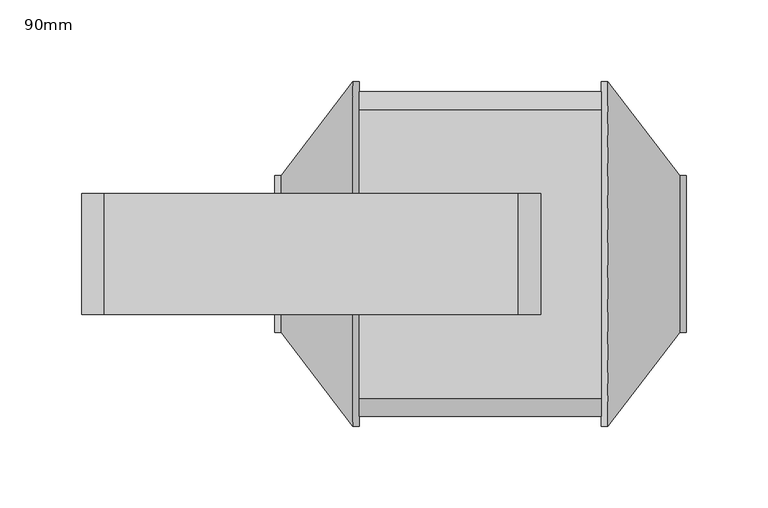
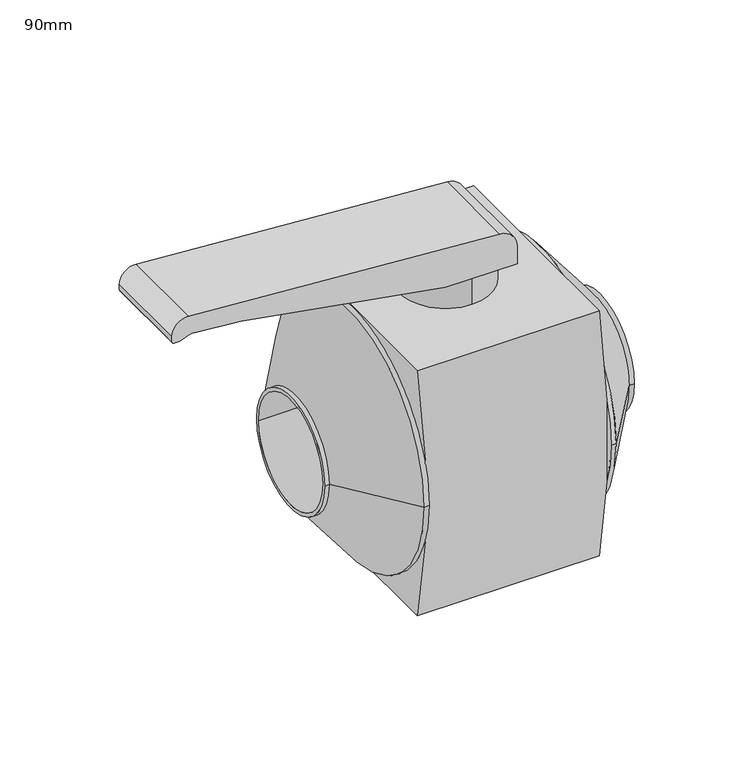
"""IFC4 building model written with IfcOpenShell, lengths in millimetres: pipe fitting geometry, PipeAccessory_HTA_CPVC_BallValves_(75-110) : 90mm."""

from ifc_helpers import new_model, si_unit, point, frame, frame_2d, origin, place, context, project, spatial, polyline, circle_curve, trimmed, segment, composite_curve, outline, extrude, source, transform, mapped, element, save
from ifc_brep_helpers import plane_surface, cylinder_surface, revolved_surface, advanced_brep


def pipe_fitting_90mm_082ae0c6(model_context):
    return source(origin(), model_context, "Body", "SolidModel", [
        extrude(outline(composite_curve([segment(polyline([(127.769971, 37.0), (143.0385704, 37.0)]), True, "CONTINUOUS"), segment(trimmed(circle_curve(frame_2d((143.0385704, 22.0)), 15.0), [point((143.0385704, 37.0))], [point((158.0000408, 23.0744323))], False, "CARTESIAN"), True, "CONTINUOUS"), segment(polyline([(158.0000408, 23.0744323), (176.0137159, -230.2659945)]), True, "CONTINUOUS"), segment(trimmed(circle_curve(frame_2d((163.2306259, -231.1839902)), 12.8160098), [point((176.0137159, -230.2659945))], [point((163.2306259, -244.0))], False, "CARTESIAN"), True, "CONTINUOUS"), segment(polyline([(163.2306259, -244.0), (158.508446, -244.0)]), True, "CONTINUOUS"), segment(trimmed(circle_curve(frame_2d((158.508446, -242.491554)), 1.508446), [point((158.508446, -244.0))], [point((157.0, -242.491554))], False, "CARTESIAN"), True, "CONTINUOUS"), segment(polyline([(157.0, -242.491554), (157.0, -238.7032744)]), True, "CONTINUOUS"), segment(trimmed(circle_curve(frame_2d((164.9869467, -238.7032744)), 7.9869467), [point((157.0, -238.7032744))], [point((157.7483147, -235.3278449))], False, "CARTESIAN"), True, "CONTINUOUS"), segment(polyline([(157.7483147, -235.3278449), (159.3708994, -231.8482009)]), True, "CONTINUOUS"), segment(trimmed(circle_curve(frame_2d((148.9196901, -226.974722)), 11.5316335), [point((159.3708994, -231.8482009))], [point((160.4052437, -225.9448526))], True, "CARTESIAN"), True, "CONTINUOUS"), segment(polyline([(160.4052437, -225.9448526), (157.0, -187.9680892), (127.769971, -21.447273), (127.769971, 37.0)]), True, "CONTINUOUS")], self_intersect=False)), frame((0.0, -37.0, 0.0), z_axis=(0.0, 1.0, 0.0), x_axis=(0.0, 0.0, 1.0)), (0.0, 0.0, 1.0), 74.0),
        advanced_brep(
        [(-74.0, 88.5, 105.5), (-74.0, 99.4810726, 35.1250082), (-74.0, 0.0, 105.5), (-74.0, 0.0, -105.5), (-74.0, -88.5, -105.5), (-74.0, -99.4810726, -35.1250082), (-74.0, -99.4810726, 35.1250082), (-74.0, -88.5, 105.5), (-74.0, 99.4810726, -35.1250082), (-74.0, 88.5, -105.5), (74.0, 88.5, 105.5), (74.0, 0.0, 105.5), (74.0, 99.4810726, 35.1250082), (74.0, -88.5, 105.5), (74.0, -99.4810726, 35.1250082), (74.0, -99.4810726, -35.1250082), (74.0, -88.5, -105.5), (74.0, 0.0, -105.5), (74.0, 88.5, -105.5), (74.0, 99.4810726, -35.1250082), (0.0, -37.0, 105.5), (0.0, 37.0, 105.5), (-74.0, 105.5, 0.0), (-74.0, -105.5, 0.0), (-78.0, -105.5, 0.0), (-78.0, 105.5, 0.0), (74.0, -105.5, 0.0), (74.0, 105.5, 0.0), (78.0, -105.5, 0.0), (78.0, 105.5, 0.0), (122.0, 48.0, 0.0), (122.0, -48.0, 0.0), (126.0, -48.0, 0.0), (126.0, 48.0, 0.0), (126.0, 45.0, 0.0), (126.0, -45.0, 0.0), (0.0, 37.0, 130.5), (0.0, -37.0, 130.5), (-122.0, 48.0, 0.0), (-122.0, -48.0, 0.0), (-126.0, 48.0, 0.0), (-126.0, -48.0, 0.0), (-126.0, -45.0, 0.0), (-126.0, 45.0, 0.0), (74.0, 45.0, 0.0), (74.0, -45.0, 0.0), (-74.0, 45.0, 0.0), (-74.0, -45.0, 0.0)],
        [
            (0, 1, circle_curve(frame((-74.0, -356.625, 0.0), z_axis=(-1.0, 0.0, 0.0), x_axis=(0.0, 1.0, 0.0)), 457.4565724)),
            (1, 2, circle_curve(frame((-74.0, 0.0, 0.0), z_axis=(1.0, 0.0, 0.0), x_axis=(0.0, 1.0, 0.0)), 105.5)),
            (2, 0),
            (3, 4),
            (4, 5, circle_curve(frame((-74.0, 356.625, 0.0), z_axis=(-1.0, 0.0, 0.0), x_axis=(0.0, 1.0, 0.0)), 457.4565724)),
            (5, 3, circle_curve(frame((-74.0, 0.0, 0.0), z_axis=(1.0, 0.0, 0.0), x_axis=(0.0, 1.0, 0.0)), 105.5)),
            (6, 7, circle_curve(frame((-74.0, 356.625, 0.0), z_axis=(-1.0, 0.0, 0.0), x_axis=(0.0, 1.0, 0.0)), 457.4565724)),
            (7, 2),
            (2, 6, circle_curve(frame((-74.0, 0.0, 0.0), z_axis=(1.0, 0.0, 0.0), x_axis=(0.0, 1.0, 0.0)), 105.5)),
            (8, 9, circle_curve(frame((-74.0, -356.625, 0.0), z_axis=(-1.0, 0.0, 0.0), x_axis=(0.0, 1.0, 0.0)), 457.4565724)),
            (9, 3),
            (3, 8, circle_curve(frame((-74.0, 0.0, 0.0), z_axis=(1.0, 0.0, 0.0), x_axis=(0.0, 1.0, 0.0)), 105.5)),
            (10, 11),
            (11, 12, circle_curve(frame((74.0, 0.0, 0.0), z_axis=(-1.0, 0.0, 0.0), x_axis=(0.0, -1.0, 0.0)), 105.5)),
            (12, 10, circle_curve(frame((74.0, -356.625, 0.0), z_axis=(1.0, 0.0, 0.0), x_axis=(0.0, 1.0, 0.0)), 457.4565724)),
            (11, 13),
            (13, 14, circle_curve(frame((74.0, 356.625, 0.0), z_axis=(1.0, 0.0, 0.0), x_axis=(0.0, 1.0, 0.0)), 457.4565724)),
            (14, 11, circle_curve(frame((74.0, 0.0, 0.0), z_axis=(-1.0, 0.0, 0.0), x_axis=(0.0, -1.0, 0.0)), 105.5)),
            (15, 16, circle_curve(frame((74.0, 356.625, 0.0), z_axis=(1.0, 0.0, 0.0), x_axis=(0.0, 1.0, 0.0)), 457.4565724)),
            (16, 17),
            (17, 15, circle_curve(frame((74.0, 0.0, 0.0), z_axis=(-1.0, 0.0, 0.0), x_axis=(0.0, -1.0, 0.0)), 105.5)),
            (17, 18),
            (18, 19, circle_curve(frame((74.0, -356.625, 0.0), z_axis=(1.0, 0.0, 0.0), x_axis=(0.0, 1.0, 0.0)), 457.4565724)),
            (19, 17, circle_curve(frame((74.0, 0.0, 0.0), z_axis=(-1.0, 0.0, 0.0), x_axis=(0.0, -1.0, 0.0)), 105.5)),
            (9, 18),
            (16, 4),
            (7, 13),
            (10, 0),
            (20, 21, circle_curve(frame((0.0, 0.0, 105.5), z_axis=(0.0, 0.0, -1.0), x_axis=(0.0, -1.0, 0.0)), 37.0)),
            (21, 20, circle_curve(frame((0.0, 0.0, 105.5), z_axis=(0.0, 0.0, -1.0), x_axis=(0.0, -1.0, 0.0)), 37.0)),
            (8, 1, circle_curve(frame((-74.0, -356.625, 0.0), z_axis=(1.0, 0.0, 0.0), x_axis=(0.0, 1.0, 0.0)), 457.4565724)),
            (12, 19, circle_curve(frame((74.0, -356.625, 0.0), z_axis=(-1.0, 0.0, 0.0), x_axis=(0.0, 1.0, 0.0)), 457.4565724)),
            (15, 14, circle_curve(frame((74.0, 356.625, 0.0), z_axis=(-1.0, 0.0, 0.0), x_axis=(0.0, 1.0, 0.0)), 457.4565724)),
            (6, 5, circle_curve(frame((-74.0, 356.625, 0.0), z_axis=(1.0, 0.0, 0.0), x_axis=(0.0, 1.0, 0.0)), 457.4565724)),
            (22, 1, circle_curve(frame((-74.0, 0.0, 0.0), z_axis=(1.0, 0.0, 0.0), x_axis=(0.0, 1.0, 0.0)), 105.5)),
            (8, 22, circle_curve(frame((-74.0, 0.0, 0.0), z_axis=(1.0, 0.0, 0.0), x_axis=(0.0, 1.0, 0.0)), 105.5)),
            (6, 23, circle_curve(frame((-74.0, 0.0, 0.0), z_axis=(1.0, 0.0, 0.0), x_axis=(0.0, 1.0, 0.0)), 105.5)),
            (23, 5, circle_curve(frame((-74.0, 0.0, 0.0), z_axis=(1.0, 0.0, 0.0), x_axis=(0.0, 1.0, 0.0)), 105.5)),
            (24, 23),
            (22, 25),
            (25, 24, circle_curve(frame((-78.0, 0.0, 0.0), z_axis=(1.0, 0.0, 0.0), x_axis=(0.0, 1.0, 0.0)), 105.5)),
            (24, 25, circle_curve(frame((-78.0, 0.0, 0.0), z_axis=(1.0, 0.0, 0.0), x_axis=(0.0, 1.0, 0.0)), 105.5)),
            (15, 26, circle_curve(frame((74.0, 0.0, 0.0), z_axis=(-1.0, 0.0, 0.0), x_axis=(0.0, -1.0, 0.0)), 105.5)),
            (26, 14, circle_curve(frame((74.0, 0.0, 0.0), z_axis=(-1.0, 0.0, 0.0), x_axis=(0.0, -1.0, 0.0)), 105.5)),
            (27, 19, circle_curve(frame((74.0, 0.0, 0.0), z_axis=(-1.0, 0.0, 0.0), x_axis=(0.0, -1.0, 0.0)), 105.5)),
            (12, 27, circle_curve(frame((74.0, 0.0, 0.0), z_axis=(-1.0, 0.0, 0.0), x_axis=(0.0, -1.0, 0.0)), 105.5)),
            (28, 26),
            (27, 29),
            (29, 28, circle_curve(frame((78.0, 0.0, 0.0), z_axis=(-1.0, 0.0, 0.0), x_axis=(0.0, -1.0, 0.0)), 105.5)),
            (28, 29, circle_curve(frame((78.0, 0.0, 0.0), z_axis=(-1.0, 0.0, 0.0), x_axis=(0.0, -1.0, 0.0)), 105.5)),
            (29, 30),
            (30, 31, circle_curve(frame((122.0, 0.0, 0.0), z_axis=(-1.0, 0.0, 0.0), x_axis=(0.0, -1.0, 0.0)), 48.0)),
            (31, 28),
            (31, 30, circle_curve(frame((122.0, 0.0, 0.0), z_axis=(-1.0, 0.0, 0.0), x_axis=(0.0, 1.0, 0.0)), 48.0)),
            (32, 33, circle_curve(frame((126.0, 0.0, 0.0), z_axis=(1.0, 0.0, 0.0), x_axis=(0.0, 1.0, 0.0)), 48.0)),
            (33, 32, circle_curve(frame((126.0, 0.0, 0.0), z_axis=(1.0, 0.0, 0.0), x_axis=(0.0, 1.0, 0.0)), 48.0)),
            (34, 35, circle_curve(frame((126.0, 0.0, 0.0), z_axis=(-1.0, 0.0, 0.0), x_axis=(0.0, -1.0, 0.0)), 45.0)),
            (35, 34, circle_curve(frame((126.0, 0.0, 0.0), z_axis=(-1.0, 0.0, 0.0), x_axis=(0.0, -1.0, 0.0)), 45.0)),
            (33, 30),
            (31, 32),
            (36, 37, circle_curve(frame((0.0, 0.0, 130.5), z_axis=(0.0, 0.0, 1.0), x_axis=(0.0, -1.0, 0.0)), 37.0)),
            (37, 36, circle_curve(frame((0.0, 0.0, 130.5), z_axis=(0.0, 0.0, 1.0), x_axis=(0.0, -1.0, 0.0)), 37.0)),
            (36, 21),
            (20, 37),
            (25, 38),
            (38, 39, circle_curve(frame((-122.0, 0.0, 0.0), z_axis=(1.0, 0.0, 0.0), x_axis=(0.0, -1.0, 0.0)), 48.0)),
            (39, 24),
            (39, 38, circle_curve(frame((-122.0, 0.0, 0.0), z_axis=(1.0, 0.0, 0.0), x_axis=(0.0, 1.0, 0.0)), 48.0)),
            (40, 41, circle_curve(frame((-126.0, 0.0, 0.0), z_axis=(-1.0, 0.0, 0.0), x_axis=(0.0, -1.0, 0.0)), 48.0)),
            (41, 40, circle_curve(frame((-126.0, 0.0, 0.0), z_axis=(-1.0, 0.0, 0.0), x_axis=(0.0, -1.0, 0.0)), 48.0)),
            (42, 43, circle_curve(frame((-126.0, 0.0, 0.0), z_axis=(1.0, 0.0, 0.0), x_axis=(0.0, -1.0, 0.0)), 45.0)),
            (43, 42, circle_curve(frame((-126.0, 0.0, 0.0), z_axis=(1.0, 0.0, 0.0), x_axis=(0.0, -1.0, 0.0)), 45.0)),
            (40, 38),
            (39, 41),
            (44, 45, circle_curve(frame((74.0, 0.0, 0.0), z_axis=(1.0, 0.0, 0.0), x_axis=(0.0, -1.0, 0.0)), 45.0)),
            (45, 44, circle_curve(frame((74.0, 0.0, 0.0), z_axis=(1.0, 0.0, 0.0), x_axis=(0.0, -1.0, 0.0)), 45.0)),
            (45, 35),
            (34, 44),
            (46, 47, circle_curve(frame((-74.0, 0.0, 0.0), z_axis=(-1.0, 0.0, 0.0), x_axis=(0.0, -1.0, 0.0)), 45.0)),
            (47, 46, circle_curve(frame((-74.0, 0.0, 0.0), z_axis=(-1.0, 0.0, 0.0), x_axis=(0.0, -1.0, 0.0)), 45.0)),
            (46, 43),
            (42, 47),
        ],
        [
            plane_surface(frame((-74.0, 0.0, 0.0), z_axis=(-1.0, 0.0, 0.0), x_axis=(0.0, 0.0, 1.0))),
            plane_surface(frame((74.0, 0.0, 0.0), z_axis=(1.0, 0.0, 0.0), x_axis=(0.0, 0.0, 1.0))),
            plane_surface(frame((-74.0, 88.5, -105.5), z_axis=(0.0, 0.0, -1.0), x_axis=(1.0, 0.0, 0.0))),
            plane_surface(frame((-74.0, -88.5, 105.5), z_axis=(0.0, 0.0, 1.0), x_axis=(1.0, 0.0, 0.0))),
            cylinder_surface(frame((-74.0, -356.625, 0.0), z_axis=(-1.0, 0.0, 0.0), x_axis=(0.0, 1.0, 0.0)), 457.4565724),
            cylinder_surface(frame((-74.0, 356.625, 0.0), z_axis=(-1.0, 0.0, 0.0), x_axis=(0.0, 1.0, 0.0)), 457.4565724),
            plane_surface(frame((-74.0, 0.0, 0.0), z_axis=(1.0, 0.0, 0.0), x_axis=(0.0, 0.0, 1.0))),
            cylinder_surface(frame((-78.0, 0.0, 0.0), z_axis=(-1.0, 0.0, 0.0), x_axis=(0.0, 1.0, 0.0)), 105.5),
            plane_surface(frame((74.0, 0.0, 0.0), z_axis=(-1.0, 0.0, 0.0), x_axis=(0.0, 0.0, 1.0))),
            cylinder_surface(frame((78.0, 0.0, 0.0), z_axis=(1.0, 0.0, 0.0), x_axis=(0.0, -1.0, 0.0)), 105.5),
            revolved_surface(polyline([(122.0, 48.000000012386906, 0.0), (78.0, 105.5, 0.0)]), (158.7304348, 0.0, 0.0), (-1.0, 0.0, 0.0)),
            plane_surface(frame((126.0, 0.0, 0.0), z_axis=(1.0, 0.0, 0.0), x_axis=(0.0, 0.0, 1.0))),
            cylinder_surface(frame((122.0, 0.0, 0.0), z_axis=(-1.0, 0.0, 0.0), x_axis=(0.0, 1.0, 0.0)), 48.0),
            plane_surface(frame((0.0, 0.0, 130.5), z_axis=(0.0, 0.0, 1.0), x_axis=(0.0, -1.0, 0.0))),
            cylinder_surface(frame((0.0, 0.0, 130.5), z_axis=(0.0, 0.0, 1.0), x_axis=(0.0, -1.0, 0.0)), 37.0),
            revolved_surface(polyline([(-122.0, 48.000000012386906, 0.0), (-78.0, 105.5, 0.0)]), (-158.7304348, 0.0, 0.0), (1.0, 0.0, 0.0)),
            plane_surface(frame((-126.0, 0.0, 0.0), z_axis=(-1.0, 0.0, 0.0), x_axis=(0.0, 0.0, 1.0))),
            cylinder_surface(frame((-122.0, 0.0, 0.0), z_axis=(1.0, 0.0, 0.0), x_axis=(0.0, -1.0, 0.0)), 48.0),
            plane_surface(frame((74.0, -45.0, 0.0), z_axis=(1.0, 0.0, 0.0), x_axis=(0.0, 0.0, 1.0))),
            revolved_surface(polyline([(74.0, -45.0, 0.0), (126.0, -45.0, 0.0)]), (126.0, 0.0, 0.0), (-1.0, 0.0, 0.0)),
            plane_surface(frame((-74.0, -45.0, 0.0), z_axis=(-1.0, 0.0, 0.0), x_axis=(0.0, 0.0, -1.0))),
            revolved_surface(polyline([(-126.0, -45.0, 0.0), (-74.0, -45.0, 0.0)]), (-74.0, 0.0, 0.0), (-1.0, 0.0, 0.0)),
        ],
        [
            (0, [[1, 2, 3]]),
            (0, [[4, 5, 6]]),
            (0, [[7, 8, 9]]),
            (0, [[10, 11, 12]]),
            (1, [[13, 14, 15]]),
            (1, [[16, 17, 18]]),
            (1, [[19, 20, 21]]),
            (1, [[22, 23, 24]]),
            (2, [[25, -22, -20, 26, -4, -11]]),
            (3, [[27, -16, -13, 28, -3, -8], [29, 30]]),
            (4, [[-25, -10, 31, -1, -28, -15, 32, -23]]),
            (5, [[-26, -19, 33, -17, -27, -7, 34, -5]]),
            (6, [[35, -31, 36]]),
            (6, [[37, 38, -34]]),
            (7, [[39, -37, -9, -2, -35, 40, 41]]),
            (7, [[-39, 42, -40, -36, -12, -6, -38]]),
            (8, [[43, 44, -33]]),
            (8, [[45, -32, 46]]),
            (9, [[47, -43, -21, -24, -45, 48, 49]]),
            (9, [[-47, 50, -48, -46, -14, -18, -44]]),
            (10, [[51, 52, 53, -49]]),
            (10, [[-51, -50, -53, 54]]),
            (11, [[55, 56], [57, 58]]),
            (12, [[-56, 59, -54, 60]]),
            (12, [[-55, -60, -52, -59]]),
            (13, [[61, 62]]),
            (14, [[-61, 63, -29, 64]]),
            (14, [[-62, -64, -30, -63]]),
            (15, [[65, 66, 67, -41]]),
            (15, [[-65, -42, -67, 68]]),
            (16, [[69, 70], [71, 72]]),
            (17, [[-69, 73, -68, 74]]),
            (17, [[-70, -74, -66, -73]]),
            (18, [[75, 76]]),
            (19, [[-76, 77, -57, 78]]),
            (19, [[-75, -78, -58, -77]]),
            (20, [[79, 80]]),
            (21, [[-79, 81, -71, 82]]),
            (21, [[-80, -82, -72, -81]]),
        ],
    ),
    ])


if __name__ == "__main__":
    model = new_model("IFC4")
    model_context = context("Model", 3, world=origin())
    ifc_project = project(units=[si_unit("LENGTHUNIT", "METRE", prefix="MILLI")], contexts=[model_context])
    site = spatial("IfcSite", under=ifc_project)
    building = spatial("IfcBuilding", under=site)
    placement = place(None, origin())
    pipe_fitting_90mm_shape = pipe_fitting_90mm_082ae0c6(model_context)
    element("IfcPipeFitting", 1, ObjectType="PipeAccessory_HTA_CPVC_BallValves_(75-110) : 90mm", at=placement, inside=building, context=model_context, shape_type="MappedRepresentation", body=[
        mapped(pipe_fitting_90mm_shape, transform((0.0, 0.0, 0.0), x_axis=(1.0, 0.0, 0.0), y_axis=(0.0, 1.0, 0.0), z_axis=(0.0, 0.0, 1.0))),
    ])
    save(model, "model.ifc")
